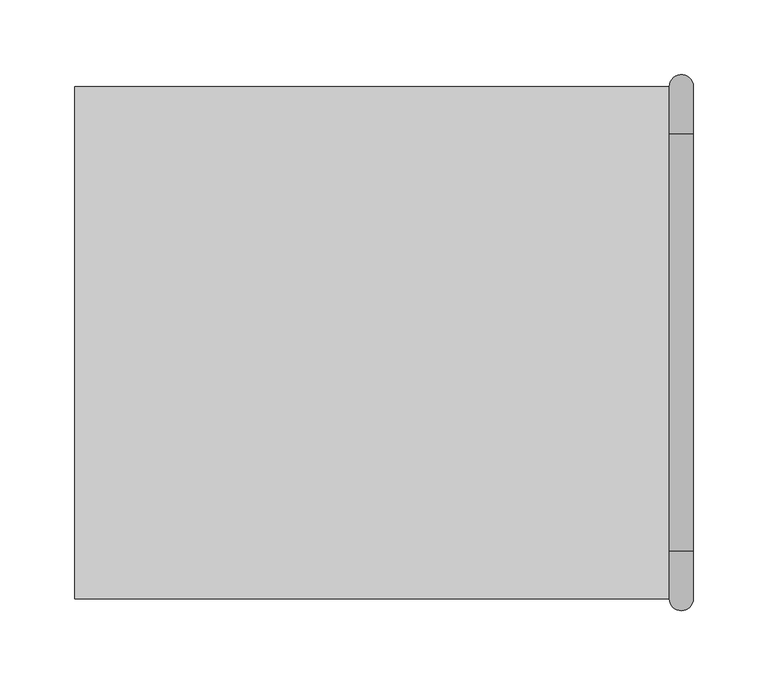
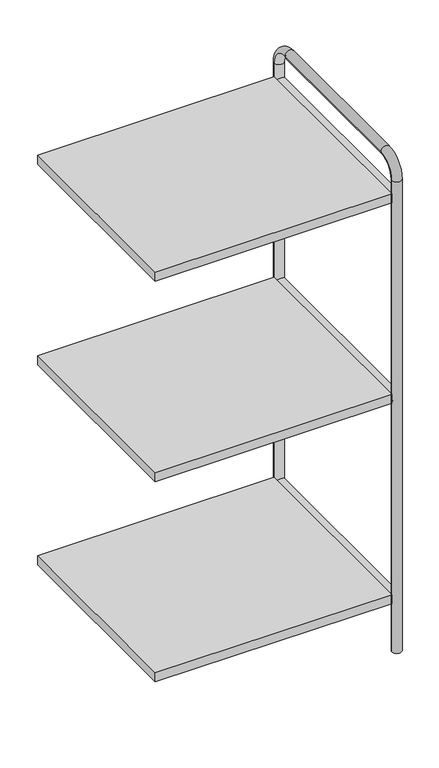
"""IFC4 building model written with IfcOpenShell, lengths in millimetres: furniture geometry, Tubbe Bookcase_Intermediate Unit_2x1 : Tubbe Bookcase_Intermediate Unit_2x1_4x2."""

import ifcopenshell
import ifcopenshell.guid

model = None  # the IFC model being written
_history = None  # IfcOwnerHistory: only IFC2X3 demands one
_inside = {}  # id of a spatial element -> (the spatial element, [elements in it])
_under = {}  # id of a project, library or spatial element -> (it, [spatial elements below it])
_declared = {}  # id of a project -> (the project, [libraries it declares])
_typed = {}  # id of a type object -> (the type object, [elements of that type])
_made_of = {}  # id of a material, layer set ... -> (it, [elements and type objects made of it])


def new_model(schema):
    """Start an empty IFC model of exactly this schema.

    Asked for "IFC4X3", IfcOpenShell would pick the latest addendum, in which some entities
    have other attributes; the version numbers below select the first issue.
    IFC2X3 requires an IfcOwnerHistory on every rooted entity: one is made here for all.
    """
    global model, _history
    if schema == "IFC4X3":
        model = ifcopenshell.file(schema_version=(4, 3, 0, 0))
    else:
        model = ifcopenshell.file(schema=schema)
    _inside.clear()
    _under.clear()
    _declared.clear()
    _typed.clear()
    _made_of.clear()
    _history = None
    if model.schema == "IFC2X3":
        org = make("IfcOrganization", Name="unknown")
        user = make(
            "IfcPersonAndOrganization",
            ThePerson=make("IfcPerson", FamilyName="unknown"),
            TheOrganization=org,
        )
        app = make(
            "IfcApplication",
            ApplicationDeveloper=org,
            Version="unknown",
            ApplicationFullName="unknown",
            ApplicationIdentifier="unknown",
        )
        _history = make(
            "IfcOwnerHistory",
            OwningUser=user,
            OwningApplication=app,
            ChangeAction="ADDED",
            CreationDate=0,
        )
    return model


def make(cls, **values):
    """One entity of the class cls with the attributes given. An attribute that is None is left unset."""
    return model.create_entity(
        cls, **{name: value for name, value in values.items() if value is not None}
    )


def rooted(cls, **values):
    """An entity with a GlobalId (a new one), such as an element, a storey or a relation."""
    return make(cls, GlobalId=ifcopenshell.guid.new(), OwnerHistory=_history, **values)


def si_unit(unit_type, name, prefix=None):
    """IfcSIUnit, for example si_unit("LENGTHUNIT", "METRE", prefix="MILLI")."""
    return make("IfcSIUnit", UnitType=unit_type, Prefix=prefix, Name=name)


def assignment(units):
    """IfcUnitAssignment: the units of a project."""
    return None if units is None else make("IfcUnitAssignment", Units=units)


def point(xyz):
    """IfcCartesianPoint."""
    return None if xyz is None else make("IfcCartesianPoint", Coordinates=xyz)


def direction(xyz):
    """IfcDirection."""
    return None if xyz is None else make("IfcDirection", DirectionRatios=xyz)


def frame(location, z_axis=None, x_axis=None):
    """IfcAxis2Placement3D, a coordinate frame: its origin and axes. An axis left out is left unset."""
    return make(
        "IfcAxis2Placement3D",
        Location=point(location),
        Axis=direction(z_axis),
        RefDirection=direction(x_axis),
    )


def frame_2d(location, x_axis=None):
    """IfcAxis2Placement2D, a coordinate frame in the plane: its origin and x axis."""
    return make(
        "IfcAxis2Placement2D", Location=point(location), RefDirection=direction(x_axis)
    )


def origin():
    """The frame at (0, 0, 0) with its axes left unset."""
    return frame((0.0, 0.0, 0.0))


def place(relative_to, where):
    """IfcLocalPlacement: puts the frame where relative to a parent placement (None: the world)."""
    return make(
        "IfcLocalPlacement", PlacementRelTo=relative_to, RelativePlacement=where
    )


def context(
    kind, dimensions, precision=None, world=None, true_north=None, identifier=None
):
    """IfcGeometricRepresentationContext, for example the 3D "Model" context."""
    return make(
        "IfcGeometricRepresentationContext",
        ContextIdentifier=identifier,
        ContextType=kind,
        CoordinateSpaceDimension=dimensions,
        Precision=precision,
        WorldCoordinateSystem=world,
        TrueNorth=true_north,
    )


def project(units=None, contexts=None):
    """IfcProject with its units and contexts."""
    return rooted(
        "IfcProject",
        Name="project",
        RepresentationContexts=contexts,
        UnitsInContext=assignment(units),
    )


def spatial(cls, under=None, at=None, **own):
    """A site, building, storey or space (cls), placed at a placement, below another one or the project."""
    s = rooted(cls, ObjectPlacement=at, **own)
    if under is not None:
        _under.setdefault(under.id(), (under, []))[1].append(s)
    return s


def polyline(points):
    """IfcPolyline through the points."""
    return make("IfcPolyline", Points=[point(p) for p in points])


def circle_curve(where, radius):
    """IfcCircle in the frame where."""
    return make("IfcCircle", Position=where, Radius=radius)


def ellipse_curve(where, semi_axis1, semi_axis2):
    """IfcEllipse in the frame where."""
    return make(
        "IfcEllipse", Position=where, SemiAxis1=semi_axis1, SemiAxis2=semi_axis2
    )


def trimmed(basis, trim1, trim2, sense, master):
    """IfcTrimmedCurve: the piece of a basis curve between two trims."""
    return make(
        "IfcTrimmedCurve",
        BasisCurve=basis,
        Trim1=trim1,
        Trim2=trim2,
        SenseAgreement=sense,
        MasterRepresentation=master,
    )


def segment(curve, same_sense, transition):
    """IfcCompositeCurveSegment."""
    return make(
        "IfcCompositeCurveSegment",
        Transition=transition,
        SameSense=same_sense,
        ParentCurve=curve,
    )


def composite_curve(segments, self_intersect=None):
    """IfcCompositeCurve: segments joined end to end."""
    return make("IfcCompositeCurve", Segments=segments, SelfIntersect=self_intersect)


def outline(outer, holes=None, kind="AREA"):
    """IfcArbitraryClosedProfileDef: a profile drawn as a closed curve; with holes, ...WithVoids."""
    if holes is None:
        return make("IfcArbitraryClosedProfileDef", ProfileType=kind, OuterCurve=outer)
    return make(
        "IfcArbitraryProfileDefWithVoids",
        ProfileType=kind,
        OuterCurve=outer,
        InnerCurves=holes,
    )


def extrude(swept, where, along, depth):
    """IfcExtrudedAreaSolid: the profile swept, set in the frame where, extruded along a direction by depth."""
    return make(
        "IfcExtrudedAreaSolid",
        SweptArea=swept,
        Position=where,
        ExtrudedDirection=direction(along),
        Depth=depth,
    )


def shape(context_of_items, identifier, shape_type, items):
    """IfcShapeRepresentation: the items that make up one representation, for example the "Body"."""
    return make(
        "IfcShapeRepresentation",
        ContextOfItems=context_of_items,
        RepresentationIdentifier=identifier,
        RepresentationType=shape_type,
        Items=items,
    )


def source(mapping_origin, context_of_items, identifier, shape_type, items):
    """IfcRepresentationMap: a shape defined once, which mapped items show again and again."""
    return make(
        "IfcRepresentationMap",
        MappingOrigin=mapping_origin,
        MappedRepresentation=shape(context_of_items, identifier, shape_type, items),
    )


def transform(
    local_origin,
    x_axis=None,
    y_axis=None,
    z_axis=None,
    scale=None,
    scale2=None,
    scale3=None,
    uniform=True,
):
    """IfcCartesianTransformationOperator3D, or its non-uniform kind. x_axis, y_axis, z_axis: its Axis1, 2, 3."""
    if uniform:
        return make(
            "IfcCartesianTransformationOperator3D",
            Axis1=direction(x_axis),
            Axis2=direction(y_axis),
            LocalOrigin=point(local_origin),
            Scale=scale,
            Axis3=direction(z_axis),
        )
    return make(
        "IfcCartesianTransformationOperator3DnonUniform",
        Axis1=direction(x_axis),
        Axis2=direction(y_axis),
        LocalOrigin=point(local_origin),
        Scale=scale,
        Axis3=direction(z_axis),
        Scale2=scale2,
        Scale3=scale3,
    )


def mapped(mapping_source, mapping_target):
    """IfcMappedItem: shows the shape of a source again, moved by a transform."""
    return make(
        "IfcMappedItem", MappingSource=mapping_source, MappingTarget=mapping_target
    )


def made_of(thing, what):
    """Note that an element or type object is made of a material, layer set ...; save() writes the relation."""
    if what is not None:
        _made_of.setdefault(what.id(), (what, []))[1].append(thing)
    return thing


def element(
    cls,
    number,
    at=None,
    inside=None,
    cuts=None,
    type_object=None,
    material=None,
    context=None,
    identifier="Body",
    shape_type=None,
    held_by="IfcProductDefinitionShape",
    body=None,
    shapes=None,
    **own,
):
    """One element of the class cls, such as IfcWall. Its Tag is "e" and its number.

    at: its placement. inside: the storey or other place that contains it. cuts: it is an
    opening in that element (IfcRelVoidsElement). A single representation is given by context,
    identifier, shape_type and body (its items); several are given by shapes. held_by: the class
    of the entity that holds the representations. save() writes the other relations.
    """
    e = rooted(cls, Tag="e%d" % number, ObjectPlacement=at, **own)
    if body is not None:
        shapes = [shape(context, identifier, shape_type, body)]
    if shapes is not None:
        e.Representation = make(held_by, Representations=shapes)
    if inside is not None:
        _inside.setdefault(inside.id(), (inside, []))[1].append(e)
    if cuts is not None:
        rooted(
            "IfcRelVoidsElement", RelatingBuildingElement=cuts, RelatedOpeningElement=e
        )
    if type_object is not None:
        _typed.setdefault(type_object.id(), (type_object, []))[1].append(e)
    return made_of(e, material)


def aggregate(whole, parts):
    """IfcRelAggregates: a whole, such as a stair, and the parts it consists of."""
    return rooted("IfcRelAggregates", RelatingObject=whole, RelatedObjects=parts)


def save(model, path):
    """Write the relations noted so far, then the file.

    IfcRelAggregates (storeys below a building ...), IfcRelContainedInSpatialStructure (elements
    in a storey), IfcRelDefinesByType, IfcRelAssociatesMaterial and IfcRelDeclares: one each for
    every whole, place, type object, material and project.
    """
    for whole, parts in _under.values():
        aggregate(whole, parts)
    for where, things in _inside.values():
        rooted(
            "IfcRelContainedInSpatialStructure",
            RelatedElements=things,
            RelatingStructure=where,
        )
    for kind, things in _typed.values():
        rooted("IfcRelDefinesByType", RelatedObjects=things, RelatingType=kind)
    for what, things in _made_of.values():
        rooted("IfcRelAssociatesMaterial", RelatedObjects=things, RelatingMaterial=what)
    for by, libraries in _declared.values():
        rooted("IfcRelDeclares", RelatingContext=by, RelatedDefinitions=libraries)
    model.write(path)


def plane_surface(at):
    """IfcPlane: the flat surface through the origin of the frame at, square to its z axis."""
    return make("IfcPlane", Position=at)


def cylinder_surface(at, radius):
    """IfcCylindricalSurface: all points at the distance radius from the z axis of the frame at."""
    return make("IfcCylindricalSurface", Position=at, Radius=radius)


def revolved_surface(curve, axis_point, axis_direction):
    """IfcSurfaceOfRevolution: the curve turned about the line through axis_point along axis_direction."""
    return make(
        "IfcSurfaceOfRevolution",
        SweptCurve=make("IfcArbitraryOpenProfileDef", ProfileType="CURVE", Curve=curve),
        AxisPosition=make("IfcAxis1Placement", Location=point(axis_point), Axis=direction(axis_direction)),
    )


def advanced_brep(points, edges, surfaces, faces):
    """IfcAdvancedBrep: a solid bounded by faces that lie on surfaces and meet in shared edges.

    An edge is (start, end): straight between two places in points (the first is 0);
    or (start, end, curve); or (start, end, curve, False) where it runs against its curve.
    A face is (place in surfaces, loops), or (place, loops, False) where it looks against
    its surface's normal. A loop lists edges by number (the first is 1), with a minus sign
    where the edge is run from its end to its start. The first loop is the outer one.
    """
    corners = [point(p) for p in points]
    vertices = [make("IfcVertexPoint", VertexGeometry=c) for c in corners]
    made = []
    for start, end, *more in edges:
        made.append(
            make(
                "IfcEdgeCurve",
                EdgeStart=vertices[start],
                EdgeEnd=vertices[end],
                EdgeGeometry=more[0] if more else make("IfcPolyline", Points=[corners[start], corners[end]]),
                SameSense=more[1] if len(more) > 1 else True,
            )
        )
    hull = []
    for where, loops, *sense in faces:
        bounds = []
        for j, loop in enumerate(loops):
            ring = [make("IfcOrientedEdge", EdgeElement=made[abs(k) - 1], Orientation=k > 0) for k in loop]
            bounds.append(
                make(
                    "IfcFaceOuterBound" if j == 0 else "IfcFaceBound",
                    Bound=make("IfcEdgeLoop", EdgeList=ring),
                    Orientation=True,
                )
            )
        hull.append(make("IfcAdvancedFace", Bounds=bounds, FaceSurface=surfaces[where], SameSense=sense[0] if sense else True))
    return make("IfcAdvancedBrep", Outer=make("IfcClosedShell", CfsFaces=hull))


def furniture_e37a2ed3(model_context):
    return source(origin(), model_context, "Body", "SolidModel", [
        extrude(outline(polyline([(199.0, 171.5), (199.0, -171.5), (-199.0, -171.5), (-199.0, 171.5), (199.0, 171.5)])), frame((0.0, 0.0, 798.0), z_axis=(0.0, 0.0, 1.0), x_axis=(1.0, 0.0, 0.0)), (0.0, 0.0, 1.0), 16.0),
        extrude(outline(polyline([(199.0, 171.5), (199.0, -171.5), (-199.0, -171.5), (-199.0, 171.5), (199.0, 171.5)])), frame((0.0, 0.0, 442.0), z_axis=(0.0, 0.0, 1.0), x_axis=(1.0, 0.0, 0.0)), (0.0, 0.0, 1.0), 16.0),
        extrude(outline(polyline([(199.0, 171.5), (199.0, -171.5), (-199.0, -171.5), (-199.0, 171.5), (199.0, 171.5)])), frame((0.0, 0.0, 86.0), z_axis=(0.0, 0.0, 1.0), x_axis=(1.0, 0.0, 0.0)), (0.0, 0.0, 1.0), 16.0),
        extrude(outline(composite_curve([segment(trimmed(circle_curve(frame_2d((806.0, 207.0)), 8.0), [point((806.0, 199.0))], [point((806.0, 215.0))], False, "CARTESIAN"), True, "CONTINUOUS"), segment(trimmed(circle_curve(frame_2d((806.0, 207.0)), 8.0), [point((806.0, 215.0))], [point((806.0, 199.0))], False, "CARTESIAN"), True, "CONTINUOUS")], self_intersect=False)), frame((0.0, -171.5, 0.0), z_axis=(0.0, 1.0, 0.0), x_axis=(0.0, 0.0, 1.0)), (0.0, 0.0, 1.0), 343.0),
        extrude(outline(composite_curve([segment(trimmed(circle_curve(frame_2d((450.0, 207.0)), 8.0), [point((450.0, 199.0))], [point((450.0, 215.0))], False, "CARTESIAN"), True, "CONTINUOUS"), segment(trimmed(circle_curve(frame_2d((450.0, 207.0)), 8.0), [point((450.0, 215.0))], [point((450.0, 199.0))], False, "CARTESIAN"), True, "CONTINUOUS")], self_intersect=False)), frame((0.0, -171.5, 0.0), z_axis=(0.0, 1.0, 0.0), x_axis=(0.0, 0.0, 1.0)), (0.0, 0.0, 1.0), 343.0),
        extrude(outline(composite_curve([segment(trimmed(circle_curve(frame_2d((94.0, 207.0)), 8.0), [point((94.0, 199.0))], [point((94.0, 215.0))], False, "CARTESIAN"), True, "CONTINUOUS"), segment(trimmed(circle_curve(frame_2d((94.0, 207.0)), 8.0), [point((94.0, 215.0))], [point((94.0, 199.0))], False, "CARTESIAN"), True, "CONTINUOUS")], self_intersect=False)), frame((0.0, -171.5, 0.0), z_axis=(0.0, 1.0, 0.0), x_axis=(0.0, 0.0, 1.0)), (0.0, 0.0, 1.0), 343.0),
        advanced_brep(
        [(199.0, 171.5, 0.0), (215.0, 171.5, 0.0), (199.0, 171.5, 838.0), (215.0, 171.5, 838.0), (215.0, 139.5, 870.0), (199.0, 139.5, 870.0), (199.0, -139.5, 870.0), (215.0, -139.5, 870.0), (215.0, -171.5, 838.0), (199.0, -171.5, 838.0), (199.0, -171.5, 0.0), (215.0, -171.5, 0.0)],
        [
            (0, 1, circle_curve(frame((207.0, 171.5, 0.0), z_axis=(0.0, 0.0, -1.0), x_axis=(1.0, 0.0, 0.0)), 8.0)),
            (1, 0, circle_curve(frame((207.0, 171.5, 0.0), z_axis=(0.0, 0.0, -1.0), x_axis=(1.0, 0.0, 0.0)), 8.0)),
            (0, 2),
            (2, 3, circle_curve(frame((207.0, 171.5, 838.0), z_axis=(0.0, 0.0, -1.0), x_axis=(1.0, 0.0, 0.0)), 8.0)),
            (3, 1),
            (3, 2, circle_curve(frame((207.0, 171.5, 838.0), z_axis=(0.0, 0.0, -1.0), x_axis=(1.0, 0.0, 0.0)), 8.0)),
            (4, 5, circle_curve(frame((207.0, 139.5, 870.0), z_axis=(0.0, -1.0, 0.0), x_axis=(1.0, 0.0, 0.0)), 8.0)),
            (5, 6),
            (6, 7, circle_curve(frame((207.0, -139.5, 870.0), z_axis=(0.0, 1.0, 0.0), x_axis=(1.0, 0.0, 0.0)), 8.0)),
            (7, 4),
            (5, 4, circle_curve(frame((207.0, 139.5, 870.0), z_axis=(0.0, -1.0, 0.0), x_axis=(1.0, 0.0, 0.0)), 8.0)),
            (7, 6, circle_curve(frame((207.0, -139.5, 870.0), z_axis=(0.0, 1.0, 0.0), x_axis=(1.0, 0.0, 0.0)), 8.0)),
            (8, 7, circle_curve(frame((215.0, -139.5, 838.0), z_axis=(-1.0, 0.0, 0.0), x_axis=(0.0, 0.0, 1.0)), 32.0)),
            (6, 9, circle_curve(frame((199.0, -139.5, 838.0), z_axis=(1.0, 0.0, 0.0), x_axis=(0.0, 0.0, 1.0)), 32.0)),
            (9, 8, circle_curve(frame((207.0, -171.5, 838.0), z_axis=(0.0, 0.0, 1.0), x_axis=(1.0, 0.0, 0.0)), 8.0)),
            (8, 9, circle_curve(frame((207.0, -171.5, 838.0), z_axis=(0.0, 0.0, 1.0), x_axis=(1.0, 0.0, 0.0)), 8.0)),
            (10, 11, circle_curve(frame((207.0, -171.5, 0.0), z_axis=(0.0, 0.0, -1.0), x_axis=(1.0, 0.0, 0.0)), 8.0)),
            (11, 10, circle_curve(frame((207.0, -171.5, 0.0), z_axis=(0.0, 0.0, -1.0), x_axis=(1.0, 0.0, 0.0)), 8.0)),
            (9, 10),
            (11, 8),
            (4, 3, circle_curve(frame((215.0, 139.5, 838.0), z_axis=(-1.0, 0.0, 0.0), x_axis=(0.0, 1.0, 0.0)), 32.0)),
            (2, 5, circle_curve(frame((199.0, 139.5, 838.0), z_axis=(1.0, 0.0, 0.0), x_axis=(0.0, 1.0, 0.0)), 32.0)),
        ],
        [
            plane_surface(frame((207.0, 171.5, 0.0), z_axis=(0.0, 0.0, -1.0), x_axis=(1.0, 0.0, 0.0))),
            cylinder_surface(frame((207.0, 171.5, 0.0), z_axis=(0.0, 0.0, -1.0), x_axis=(1.0, 0.0, 0.0)), 8.0),
            cylinder_surface(frame((207.0, 139.5, 870.0), z_axis=(0.0, 1.0, 0.0), x_axis=(1.0, 0.0, 0.0)), 8.0),
            revolved_surface(trimmed(ellipse_curve(frame((207.0, -139.5, 870.0), z_axis=(0.0, 1.0, 0.0), x_axis=(1.0, 0.0, 0.0)), 8.0, 8.0), [point((199.0, -139.5, 870.0))], [point((215.0, -139.5, 870.0))], True, "CARTESIAN"), (207.0, -139.5, 838.0), (1.0, 0.0, 0.0)),
            revolved_surface(trimmed(ellipse_curve(frame((207.0, -139.5, 870.0), z_axis=(0.0, 1.0, 0.0), x_axis=(1.0, 0.0, 0.0)), 8.0, 8.0), [point((215.0, -139.5, 870.0))], [point((199.0, -139.5, 870.0))], True, "CARTESIAN"), (207.0, -139.5, 838.0), (1.0, 0.0, 0.0)),
            plane_surface(frame((207.0, -171.5, 0.0), z_axis=(0.0, 0.0, -1.0), x_axis=(1.0, 0.0, 0.0))),
            cylinder_surface(frame((207.0, -171.5, 838.0), z_axis=(0.0, 0.0, 1.0), x_axis=(1.0, 0.0, 0.0)), 8.0),
            revolved_surface(trimmed(ellipse_curve(frame((207.0, 171.5, 838.0), z_axis=(0.0, 0.0, -1.0), x_axis=(1.0, 0.0, 0.0)), 8.0, 8.0), [point((199.0, 171.5, 838.0))], [point((215.0, 171.5, 838.0))], True, "CARTESIAN"), (207.0, 139.5, 838.0), (1.0, 0.0, 0.0)),
            revolved_surface(trimmed(ellipse_curve(frame((207.0, 171.5, 838.0), z_axis=(0.0, 0.0, -1.0), x_axis=(1.0, 0.0, 0.0)), 8.0, 8.0), [point((215.0, 171.5, 838.0))], [point((199.0, 171.5, 838.0))], True, "CARTESIAN"), (207.0, 139.5, 838.0), (1.0, 0.0, 0.0)),
        ],
        [
            (0, [[1, 2]]),
            (1, [[-1, 3, 4, 5]]),
            (1, [[-2, -5, 6, -3]]),
            (2, [[7, 8, 9, 10]]),
            (2, [[11, -10, 12, -8]]),
            (3, [[13, -9, 14, 15]]),
            (4, [[-14, -12, -13, 16]]),
            (5, [[17, 18]]),
            (6, [[-15, 19, -18, 20]]),
            (6, [[-16, -20, -17, -19]]),
            (7, [[21, -4, 22, -7]]),
            (8, [[-22, -6, -21, -11]]),
        ],
    ),
    ])


if __name__ == "__main__":
    model = new_model("IFC4")
    model_context = context("Model", 3, world=origin())
    ifc_project = project(units=[si_unit("LENGTHUNIT", "METRE", prefix="MILLI")], contexts=[model_context])
    site = spatial("IfcSite", under=ifc_project)
    building = spatial("IfcBuilding", under=site)
    placement = place(None, origin())
    furniture_shape = furniture_e37a2ed3(model_context)
    element("IfcFurniture", 1, ObjectType="Tubbe Bookcase_Intermediate Unit_2x1 : Tubbe Bookcase_Intermediate Unit_2x1_4x2", at=placement, inside=building, context=model_context, shape_type="MappedRepresentation", body=[
        mapped(furniture_shape, transform((0.0, 0.0, 0.0), x_axis=(1.0, 0.0, 0.0), y_axis=(0.0, 1.0, 0.0), z_axis=(0.0, 0.0, 1.0))),
    ])
    save(model, "model.ifc")
